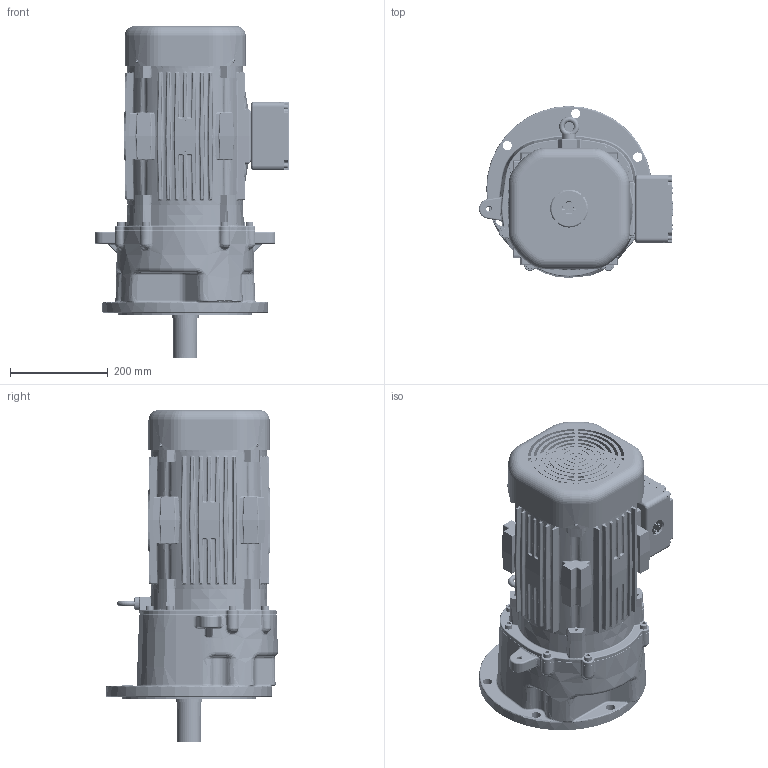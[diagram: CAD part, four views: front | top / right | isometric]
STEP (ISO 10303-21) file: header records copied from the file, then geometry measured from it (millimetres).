
FILE_DESCRIPTION(/* description */ (''),/* implementation_level */ '2;1');
FILE_NAME(/* name */ 'Z:\동력 3D 파일\PMK181_7.5kW_3D.stp',/* time_stamp */ '2021-12-01T15:25:26+09:00',/* author */ ('jaebok'),/* organization */ (''),/* preprocessor_version */ 'ST-DEVELOPER v18.1',/* originating_system */ 'Autodesk Inventor 2022',/* authorisation */ '');
FILE_SCHEMA (('AUTOMOTIVE_DESIGN { 1 0 10303 214 3 1 1 }'));
Products named in the file (1): 부품27
Bounding box: 397.84 x 352.21 x 680.5 mm (x, y, z)
Volume: 10687730.3 mm3; surface area: 1924101.8 mm2
Topology: 2 solids, 29 shells, 5331 faces, 13153 edges, 7681 vertices
Faces by surface type: bspline 1772, plane 1328, cylinder 1266, torus 467, sphere 310, cone 188
Full cylindrical faces by diameter (mm): 3.242 x4, 4.134 x4, 4.917 x9, 5 x16, 6 x9, 6.5 x8, 6.647 x5, 6.8 x4, 7 x4, 8 x8, 8.376 x8, 9.5 x4, 10 x16, 10.106 x2, 10.2 x1, 11 x8, 12 x2, 13.2 x1, 15 x1, 16 x8, 19 x6, 20 x1, 28 x2, 32 x1, 34 x1, 36 x1, 49.6 x1, 50 x3, 52 x1, 55 x2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
Entity records: 210144 total; most frequent: CARTESIAN_POINT 90640, ORIENTED_EDGE 25562, DIRECTION 21148, EDGE_CURVE 12781, AXIS2_PLACEMENT_3D 8321, VERTEX_POINT 7680, EDGE_LOOP 5643, FACE_OUTER_BOUND 5331
